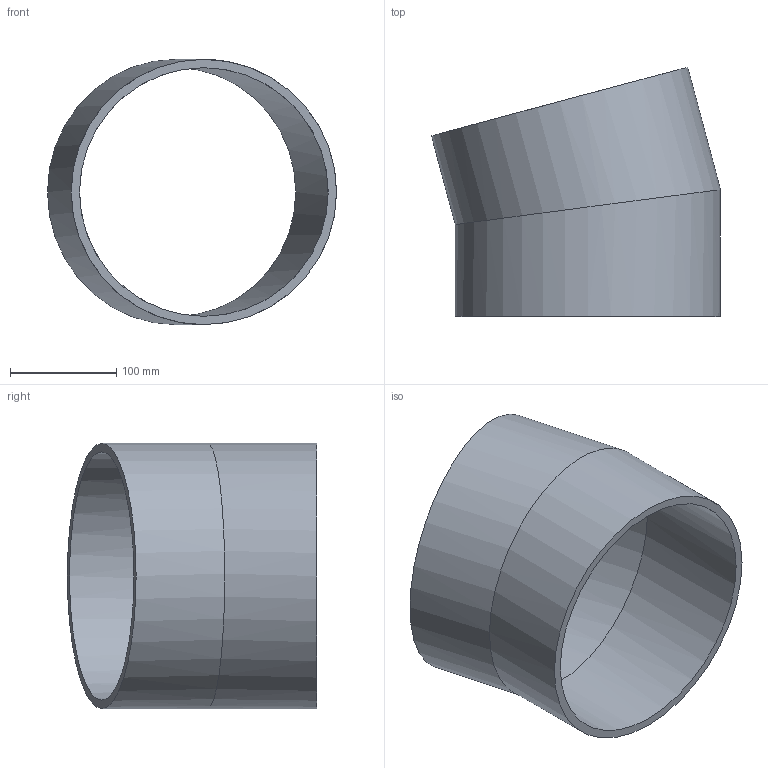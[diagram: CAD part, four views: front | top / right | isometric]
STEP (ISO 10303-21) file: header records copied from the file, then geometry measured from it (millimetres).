
FILE_DESCRIPTION(/* description */ (''),/* implementation_level */ '2;1');
FILE_NAME(/* name */ 'Z:\Geberit\Export\NewStep\371015.stp',/* time_stamp */ '2014-04-02T08:04:49+02:00',/* author */ ('nelson'),/* organization */ (''),/* preprocessor_version */ 'ST-DEVELOPER v15.2',/* originating_system */ 'Autodesk Inventor 2014',/* authorisation */ '');
FILE_SCHEMA (('AUTOMOTIVE_DESIGN { 1 0 10303 214 3 1 1 }'));
Length unit declared in the file: millimetre
Products named in the file (1): 371015
Bounding box: 272.4 x 234.84 x 250 mm (x, y, z)
Volume: 1222604 mm3; surface area: 325358.2 mm2
Topology: 1 solids, 1 shells, 6 faces, 16 edges, 12 vertices
Faces by surface type: cylinder 4, plane 2
Full cylindrical faces by diameter (mm): 234.4 x2, 250 x2
Entity records: 169 total; most frequent: DIRECTION 30, CARTESIAN_POINT 23, ORIENTED_EDGE 16, AXIS2_PLACEMENT_3D 15, EDGE_LOOP 12, FACE_BOUND 8, VERTEX_POINT 8, EDGE_CURVE 8
